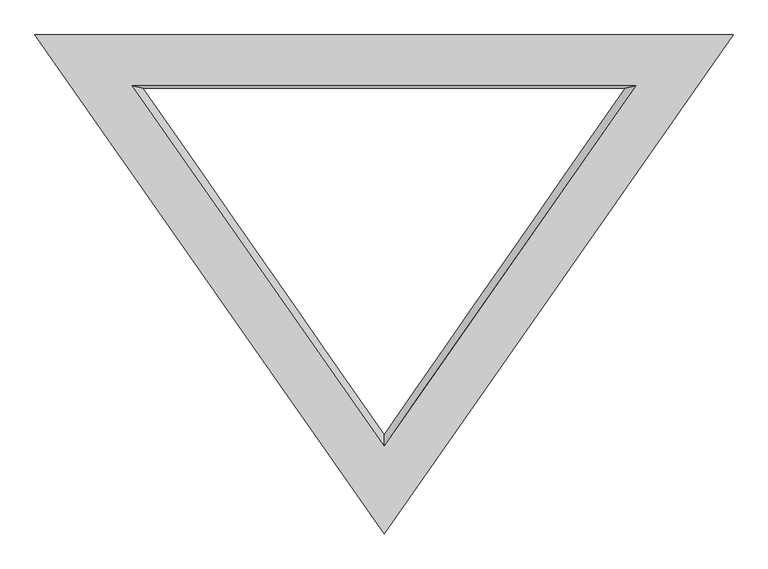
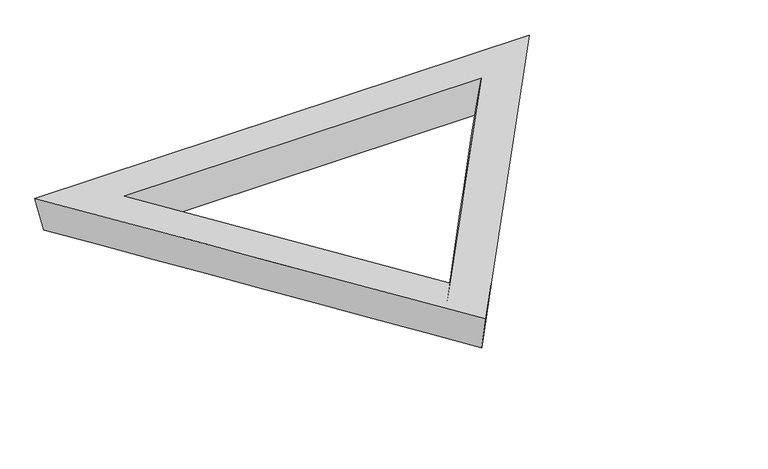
"""IFC4 building model written with IfcOpenShell, lengths in millimetres: plate geometry."""

from ifc_helpers import new_model, si_unit, frame, origin, place, context, project, spatial, source, transform, mapped, element, save
from ifc_brep_helpers import plane_surface, spline_surface, advanced_brep


def plate_b73c1cf4(model_context):
    return source(origin(), model_context, "Body", "AdvancedBrep", [
        advanced_brep(
        [(5128.6105344, 5526.3622956, 0.0), (5085.310923, 5537.3230827, 198.0486234), (6096.0, 4092.8051803, 198.5727845), (6096.0, 4136.5606242, 0.0), (7106.689077, 5537.3230827, 198.0486234), (7063.3894656, 5526.3622956, 0.0), (6096.0, 3780.8754087, 0.0), (7452.4087631, 5729.5622956, 0.0), (7496.8614846, 5740.5230694, 197.9748898), (6096.0, 3738.3549057, 198.7014012), (4739.5912369, 5729.5622956, 0.0), (4695.1385154, 5740.5230694, 197.9748898)],
        [
            (0, 1),
            (1, 2),
            (2, 3),
            (3, 0),
            (2, 4),
            (4, 5),
            (5, 3),
            (0, 5),
            (4, 1),
            (6, 7),
            (7, 8),
            (8, 9),
            (9, 6),
            (7, 10),
            (10, 11),
            (11, 8),
            (9, 11),
            (10, 6),
        ],
        [
            spline_surface(1, 1, [[(5128.6105344, 5526.3622956, 0.0), (6096.0, 4136.5606242, 0.0)], [(5085.310923, 5537.3230827, 198.0486234), (6096.0, 4092.8051803, 198.5727845)]], [2, 2], [2, 2], [0.0, 1.0], [0.0, 1.0]),
            spline_surface(1, 1, [[(6096.0, 4136.5606242, 0.0), (7063.3894656, 5526.3622956, 0.0)], [(6096.0, 4092.8051803, 198.5727845), (7106.689077, 5537.3230827, 198.0486234)]], [2, 2], [2, 2], [0.0, 1.0], [0.0, 1.0]),
            plane_surface(frame((6096.0, 5526.3622956, 0.0), z_axis=(0.0, -0.9984720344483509, 0.05525935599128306), x_axis=(-1.0, 0.0, 0.0))),
            spline_surface(1, 1, [[(6096.0, 3780.8754087, 0.0), (6096.0, 3738.3549057, 198.7014012)], [(7452.4087631, 5729.5622956, 0.0), (7496.8614846, 5740.5230694, 197.9748898)]], [2, 2], [2, 2], [0.0, 1.0], [0.0, 1.0]),
            plane_surface(frame((6096.0, 5729.5622956, 0.0), z_axis=(0.0, 0.9984709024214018, -0.05527980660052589), x_axis=(-1.0, 0.0, 0.0))),
            spline_surface(1, 1, [[(4739.5912369, 5729.5622956, 0.0), (4695.1385154, 5740.5230694, 197.9748898)], [(6096.0, 3780.8754087, 0.0), (6096.0, 3738.3549057, 198.7014012)]], [2, 2], [2, 2], [0.0, 1.0], [0.0, 1.0]),
            plane_surface(frame((6096.0, 5073.1336815, 198.2170602), z_axis=(0.0, 0.00036286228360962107, 0.9999999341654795), x_axis=(0.5732820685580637, -0.8193580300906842, 0.00029731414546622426))),
            plane_surface(frame((6096.0, 5080.0, 0.0), z_axis=(0.0, 0.0, -1.0), x_axis=(-0.5712916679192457, 0.8207471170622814, 0.0))),
        ],
        [
            (0, [[1, 2, 3, 4]]),
            (1, [[-3, 5, 6, 7]]),
            (2, [[-1, 8, -6, 9]]),
            (3, [[10, 11, 12, 13]]),
            (4, [[-11, 14, 15, 16]]),
            (5, [[-13, 17, -15, 18]]),
            (6, [[-12, -16, -17], [-2, -9, -5]]),
            (7, [[-10, -18, -14], [-4, -7, -8]]),
        ],
    ),
    ])


if __name__ == "__main__":
    model = new_model("IFC4")
    model_context = context("Model", 3, world=origin())
    ifc_project = project(units=[si_unit("LENGTHUNIT", "METRE", prefix="MILLI")], contexts=[model_context])
    site = spatial("IfcSite", under=ifc_project)
    building = spatial("IfcBuilding", under=site)
    placement = place(None, origin())
    plate_shape = plate_b73c1cf4(model_context)
    element("IfcPlate", 1, ObjectType="tn_cpanel_patbase_triangle_flat_seamless_frame_02_cylinder : tn_cpanel_pattern_mullion_t8\"xh8\"", at=placement, inside=building, context=model_context, shape_type="MappedRepresentation", body=[
        mapped(plate_shape, transform((0.0, 0.0, 0.0), x_axis=(1.0, 0.0, 0.0), y_axis=(0.0, 1.0, 0.0), z_axis=(0.0, 0.0, 1.0))),
    ])
    save(model, "model.ifc")
